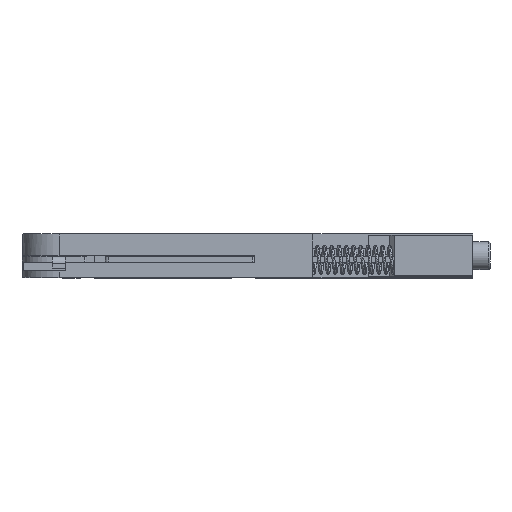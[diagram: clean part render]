
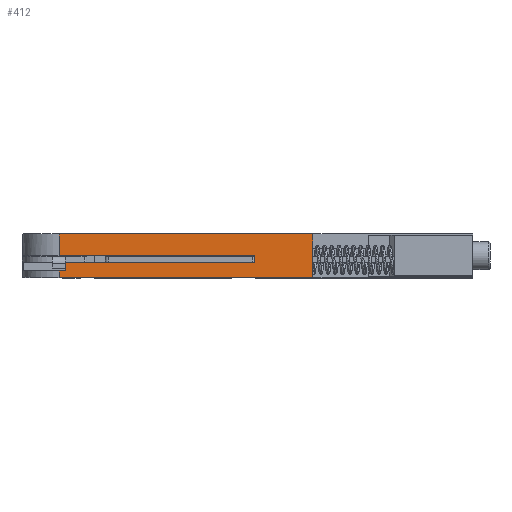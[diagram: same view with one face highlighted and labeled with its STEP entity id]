
A CAD part, top view. The second image highlights one B-rep face of the part: STEP entity #412.
In plain terms, the highlighted planar face has unit normal (0, 0, 1) as drawn and (0, -1, 0) by its records, which use the part's own axes.
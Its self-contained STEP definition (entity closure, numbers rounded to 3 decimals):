
#412 = ADVANCED_FACE ( 'NONE', ( #16159 ), #3810, .F. ) ;
#1327 = DIRECTION ( 'NONE',  ( 0., 1., 0. ) ) ;
#1515 = DIRECTION ( 'NONE',  ( 0., 0., -1. ) ) ;
#1529 = LINE ( 'NONE', #29028, #24976 ) ;
#1694 = LINE ( 'NONE', #11721, #27246 ) ;
#1914 = ORIENTED_EDGE ( 'NONE', *, *, #30304, .F. ) ;
#2814 = CARTESIAN_POINT ( 'NONE',  ( 28.05, 0., 2.432 ) ) ;
#2836 = EDGE_CURVE ( 'NONE', #13926, #25632, #24507, .T. ) ;
#3307 = CARTESIAN_POINT ( 'NONE',  ( 28.5, 0., 2.882 ) ) ;
#3311 = CARTESIAN_POINT ( 'NONE',  ( 15., 0., 1.872 ) ) ;
#3512 = VECTOR ( 'NONE', #5473, 1000. ) ;
#3658 = DIRECTION ( 'NONE',  ( 0., 0., 1. ) ) ;
#3810 = PLANE ( 'NONE',  #16774 ) ;
#3821 = VERTEX_POINT ( 'NONE', #26751 ) ;
#3910 = ORIENTED_EDGE ( 'NONE', *, *, #20819, .F. ) ;
#4020 = ORIENTED_EDGE ( 'NONE', *, *, #17468, .F. ) ;
#4433 = CARTESIAN_POINT ( 'NONE',  ( 10.65, 0., 1.872 ) ) ;
#4994 = VERTEX_POINT ( 'NONE', #21686 ) ;
#5473 = DIRECTION ( 'NONE',  ( 0., 0., 1. ) ) ;
#6412 = CARTESIAN_POINT ( 'NONE',  ( 28.05, 0., 1.872 ) ) ;
#6433 = VERTEX_POINT ( 'NONE', #32057 ) ;
#6790 = CARTESIAN_POINT ( 'NONE',  ( 10.65, 0., 2.432 ) ) ;
#7505 = VECTOR ( 'NONE', #27781, 1000. ) ;
#7652 = EDGE_CURVE ( 'NONE', #4994, #28057, #30748, .T. ) ;
#9434 = ORIENTED_EDGE ( 'NONE', *, *, #24172, .F. ) ;
#10238 = LINE ( 'NONE', #25725, #3512 ) ;
#10326 = VECTOR ( 'NONE', #1515, 1000. ) ;
#11721 = CARTESIAN_POINT ( 'NONE',  ( 10.65, 0., -0.118 ) ) ;
#11878 = ORIENTED_EDGE ( 'NONE', *, *, #32314, .F. ) ;
#12412 = DIRECTION ( 'NONE',  ( 1., 0., 0. ) ) ;
#12628 = CARTESIAN_POINT ( 'NONE',  ( 11., 0., 2.882 ) ) ;
#12940 = CARTESIAN_POINT ( 'NONE',  ( 28.5, 0., -0.118 ) ) ;
#13501 = VECTOR ( 'NONE', #28350, 1000. ) ;
#13669 = VERTEX_POINT ( 'NONE', #17950 ) ;
#13926 = VERTEX_POINT ( 'NONE', #6412 ) ;
#14462 = DIRECTION ( 'NONE',  ( -1., 0., 0. ) ) ;
#15097 = CARTESIAN_POINT ( 'NONE',  ( 28.5, 0., 1.382 ) ) ;
#15181 = ORIENTED_EDGE ( 'NONE', *, *, #30025, .F. ) ;
#16159 = FACE_OUTER_BOUND ( 'NONE', #20192, .T. ) ;
#16334 = LINE ( 'NONE', #29018, #10326 ) ;
#16523 = VECTOR ( 'NONE', #14462, 1000. ) ;
#16774 = AXIS2_PLACEMENT_3D ( 'NONE', #23888, #1327, #3658 ) ;
#17303 = ORIENTED_EDGE ( 'NONE', *, *, #22121, .F. ) ;
#17468 = EDGE_CURVE ( 'NONE', #6433, #4994, #19322, .T. ) ;
#17801 = ORIENTED_EDGE ( 'NONE', *, *, #2836, .F. ) ;
#17950 = CARTESIAN_POINT ( 'NONE',  ( 11., 0., -0.118 ) ) ;
#18088 = VERTEX_POINT ( 'NONE', #2814 ) ;
#18403 = VERTEX_POINT ( 'NONE', #26783 ) ;
#19322 = LINE ( 'NONE', #29386, #26560 ) ;
#20192 = EDGE_LOOP ( 'NONE', ( #17801, #21282, #1914, #11878, #17303, #9434, #3910, #21604, #4020, #15181 ) ) ;
#20819 = EDGE_CURVE ( 'NONE', #28057, #13669, #1694, .T. ) ;
#21282 = ORIENTED_EDGE ( 'NONE', *, *, #22519, .F. ) ;
#21604 = ORIENTED_EDGE ( 'NONE', *, *, #7652, .F. ) ;
#21686 = CARTESIAN_POINT ( 'NONE',  ( 28.5, 0., 1.392 ) ) ;
#21768 = DIRECTION ( 'NONE',  ( -1., 0., 0. ) ) ;
#22121 = EDGE_CURVE ( 'NONE', #23291, #18403, #27072, .T. ) ;
#22519 = EDGE_CURVE ( 'NONE', #18088, #13926, #1529, .T. ) ;
#23291 = VERTEX_POINT ( 'NONE', #12628 ) ;
#23888 = CARTESIAN_POINT ( 'NONE',  ( 10.65, 0., 2.942 ) ) ;
#24075 = VECTOR ( 'NONE', #28011, 1000. ) ;
#24172 = EDGE_CURVE ( 'NONE', #13669, #23291, #10238, .T. ) ;
#24507 = LINE ( 'NONE', #4433, #16523 ) ;
#24976 = VECTOR ( 'NONE', #26066, 1000. ) ;
#25522 = LINE ( 'NONE', #3307, #24075 ) ;
#25632 = VERTEX_POINT ( 'NONE', #3311 ) ;
#25725 = CARTESIAN_POINT ( 'NONE',  ( 11., 0., 2.942 ) ) ;
#26066 = DIRECTION ( 'NONE',  ( 0., 0., -1. ) ) ;
#26525 = VECTOR ( 'NONE', #12412, 1000. ) ;
#26560 = VECTOR ( 'NONE', #27059, 1000. ) ;
#26751 = CARTESIAN_POINT ( 'NONE',  ( 28.5, 0., 2.432 ) ) ;
#26783 = CARTESIAN_POINT ( 'NONE',  ( 28.5, 0., 2.882 ) ) ;
#27059 = DIRECTION ( 'NONE',  ( 1., 0., 0. ) ) ;
#27072 = LINE ( 'NONE', #30056, #26525 ) ;
#27246 = VECTOR ( 'NONE', #21768, 1000. ) ;
#27781 = DIRECTION ( 'NONE',  ( 0., 0., -1. ) ) ;
#28011 = DIRECTION ( 'NONE',  ( 0., 0., -1. ) ) ;
#28057 = VERTEX_POINT ( 'NONE', #12940 ) ;
#28350 = DIRECTION ( 'NONE',  ( -1., 0., 0. ) ) ;
#29018 = CARTESIAN_POINT ( 'NONE',  ( 15., 0., 2.942 ) ) ;
#29028 = CARTESIAN_POINT ( 'NONE',  ( 28.05, 0., 1.832 ) ) ;
#29345 = LINE ( 'NONE', #6790, #13501 ) ;
#29386 = CARTESIAN_POINT ( 'NONE',  ( 10.65, 0., 1.392 ) ) ;
#30025 = EDGE_CURVE ( 'NONE', #25632, #6433, #16334, .T. ) ;
#30056 = CARTESIAN_POINT ( 'NONE',  ( -0.62, 0., 2.882 ) ) ;
#30304 = EDGE_CURVE ( 'NONE', #3821, #18088, #29345, .T. ) ;
#30748 = LINE ( 'NONE', #15097, #7505 ) ;
#32057 = CARTESIAN_POINT ( 'NONE',  ( 15., 0., 1.392 ) ) ;
#32314 = EDGE_CURVE ( 'NONE', #18403, #3821, #25522, .T. ) ;
